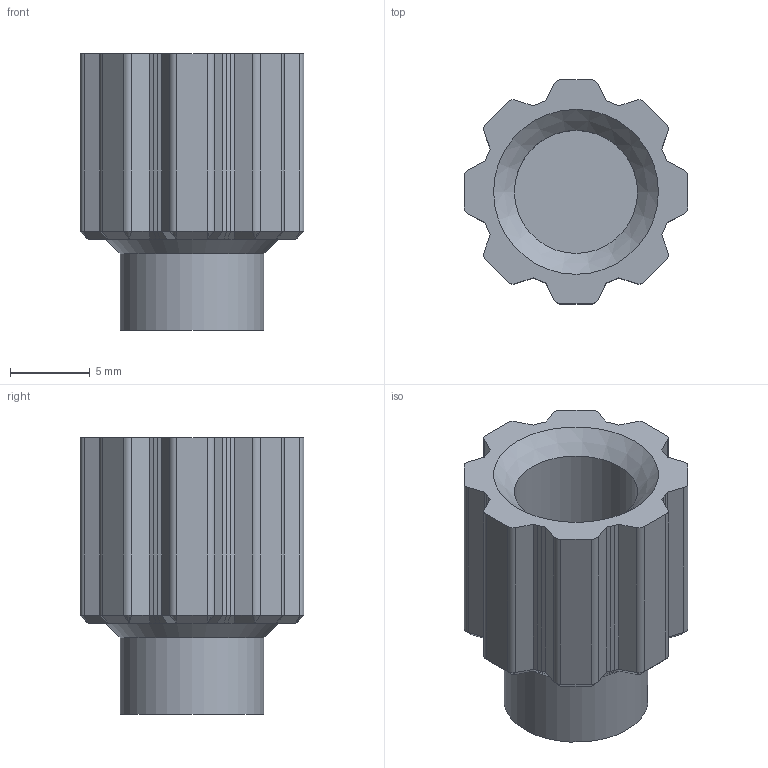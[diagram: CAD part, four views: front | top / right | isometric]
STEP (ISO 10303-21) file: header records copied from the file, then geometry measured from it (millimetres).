
FILE_DESCRIPTION(/* description */ (''),/* implementation_level */ '2;1');
FILE_NAME(/* name */ 'C:/Users/mcjor/3D Objects/6x17 Camera/cone thumbscrew.stp',/* time_stamp */ '2021-12-20T19:58:07+01:00',/* author */ (''),/* organization */ (''),/* preprocessor_version */ 'ST-DEVELOPER v15.2',/* originating_system */ 'Autodesk Translator Framework v2.0.0.5431',/* authorisation */ '');
FILE_SCHEMA (('AUTOMOTIVE_DESIGN { 1 0 10303 214 3 1 1 }'));
Length unit declared in the file: centimetre
Products named in the file (1): (Unsaved)
Bounding box: 14 x 14 x 17.3 mm (x, y, z)
Volume: 1379.1 mm3; surface area: 1320 mm2
Topology: 1 solids, 1 shells, 145 faces, 351 edges, 196 vertices
Faces by surface type: plane 108, cylinder 19, cone 18
Full cylindrical faces by diameter (mm): 3 x1, 7.7 x1, 9 x1
Entity records: 3947 total; most frequent: CARTESIAN_POINT 672, DIRECTION 662, ORIENTED_EDGE 660, EDGE_CURVE 330, LINE 290, VECTOR 290, VERTEX_POINT 196, AXIS2_PLACEMENT_3D 186
